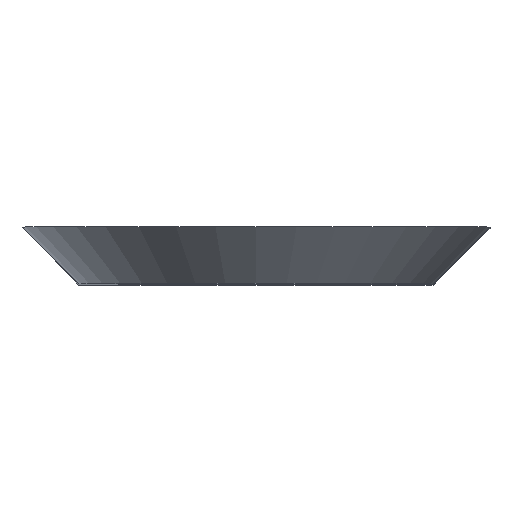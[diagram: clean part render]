
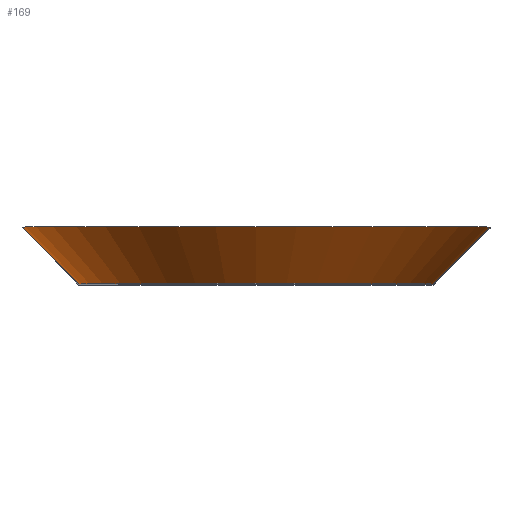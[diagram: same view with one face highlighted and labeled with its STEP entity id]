
A CAD part, top view. The second image highlights one B-rep face of the part: STEP entity #169.
In plain terms, the highlighted conical face has half-angle 45 degrees and reference radius 2.5 mm.
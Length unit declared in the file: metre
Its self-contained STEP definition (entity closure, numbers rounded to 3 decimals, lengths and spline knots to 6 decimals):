
#15=CONICAL_SURFACE('',#208,0.0025,0.785);
#30=LINE('',#305,#46);
#31=LINE('',#307,#47);
#46=VECTOR('',#251,1.);
#47=VECTOR('',#254,1.);
#79=ORIENTED_EDGE('',*,*,#109,.T.);
#80=ORIENTED_EDGE('',*,*,#110,.F.);
#81=ORIENTED_EDGE('',*,*,#108,.F.);
#82=ORIENTED_EDGE('',*,*,#103,.F.);
#103=EDGE_CURVE('',#121,#118,#128,.T.);
#108=EDGE_CURVE('',#118,#124,#30,.T.);
#109=EDGE_CURVE('',#121,#125,#31,.T.);
#110=EDGE_CURVE('',#124,#125,#129,.F.);
#118=VERTEX_POINT('',#289);
#121=VERTEX_POINT('',#294);
#124=VERTEX_POINT('',#304);
#125=VERTEX_POINT('',#308);
#128=CIRCLE('',#205,0.0025);
#129=CIRCLE('',#209,0.0033);
#138=EDGE_LOOP('',(#79,#80,#81,#82));
#149=FACE_BOUND('',#138,.T.);
#169=ADVANCED_FACE('',(#149),#15,.T.);
#205=AXIS2_PLACEMENT_3D('',#295,#241,#242);
#208=AXIS2_PLACEMENT_3D('',#306,#252,#253);
#209=AXIS2_PLACEMENT_3D('',#309,#255,#256);
#241=DIRECTION('',(0.,-1.,0.));
#242=DIRECTION('',(0.,0.,-1.));
#251=DIRECTION('',(-0.707,0.707,0.));
#252=DIRECTION('',(0.,1.,0.));
#253=DIRECTION('',(0.,0.,1.));
#254=DIRECTION('',(0.707,0.707,0.));
#255=DIRECTION('',(0.,-1.,0.));
#256=DIRECTION('',(0.,0.,-1.));
#289=CARTESIAN_POINT('',(-0.0025,-0.0008,0.005));
#294=CARTESIAN_POINT('',(0.0025,-0.0008,0.005));
#295=CARTESIAN_POINT('',(0.,-0.0008,0.005));
#304=CARTESIAN_POINT('',(-0.0033,0.,0.005));
#305=CARTESIAN_POINT('',(-0.0025,-0.0008,0.005));
#306=CARTESIAN_POINT('',(0.,-0.0008,0.005));
#307=CARTESIAN_POINT('',(0.0025,-0.0008,0.005));
#308=CARTESIAN_POINT('',(0.0033,0.,0.005));
#309=CARTESIAN_POINT('',(0.,0.,0.005));
